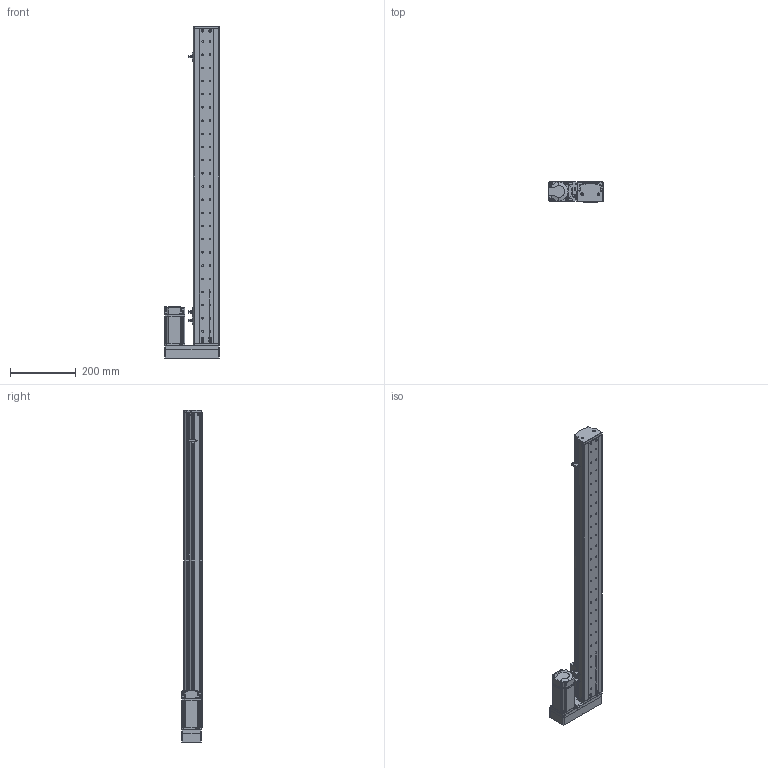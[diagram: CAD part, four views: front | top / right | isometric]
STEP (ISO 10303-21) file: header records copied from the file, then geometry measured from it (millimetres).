
FILE_DESCRIPTION (( 'STEP AP214' ), '1' );
FILE_NAME ('KSD75S-S800-MR-CM.STEP', '2019-10-18T07:25:34', ( '微软用户' ), ( '微软中国' ), 'SwSTEP 2.0', 'SolidWorks 2014', '' );
FILE_SCHEMA (( 'AUTOMOTIVE_DESIGN' ));
Length unit declared in the file: millimetre
Products named in the file (12): 75遵賑雄釱; MGW15H賑寢800; 800俴最; KSD75S-S800-MR-CM; MHMD042G1CA_2_03; 75宽模组保护罩左右折; 75宽马达安装板连板左右折丝杆; U倰嫖萇EEㄜSX672; 綴傷啣 ; ヶ傷啣; 75裔啣-800俴最; 75遵耀郪耜啣-800俴最
Assembly tree (14 placements, depth 3):
  KSD75S-S800-MR-CM
    MGW15H賑寢800
      800俴最
    75遵賑雄釱
    75遵耀郪耜啣-800俴最  x2
    75裔啣-800俴最
    ヶ傷啣
    綴傷啣 
    U倰嫖萇EEㄜSX672  x3
    75宽马达安装板连板左右折丝杆
    75宽模组保护罩左右折
    MHMD042G1CA_2_03
Bounding box: 165 x 63 x 1007.5 mm (x, y, z)
Volume: 1206653.7 mm3; surface area: 760906.7 mm2
Topology: 12 solids, 13 shells, 1541 faces, 4322 edges, 2825 vertices
Faces by surface type: cylinder 763, plane 631, cone 129, bspline 18
Entity records: 49286 total; most frequent: CARTESIAN_POINT 9303, DIRECTION 7486, ORIENTED_EDGE 6924, EDGE_CURVE 3533, AXIS2_PLACEMENT_3D 2787, VERTEX_POINT 2343, LINE 1912, VECTOR 1912
